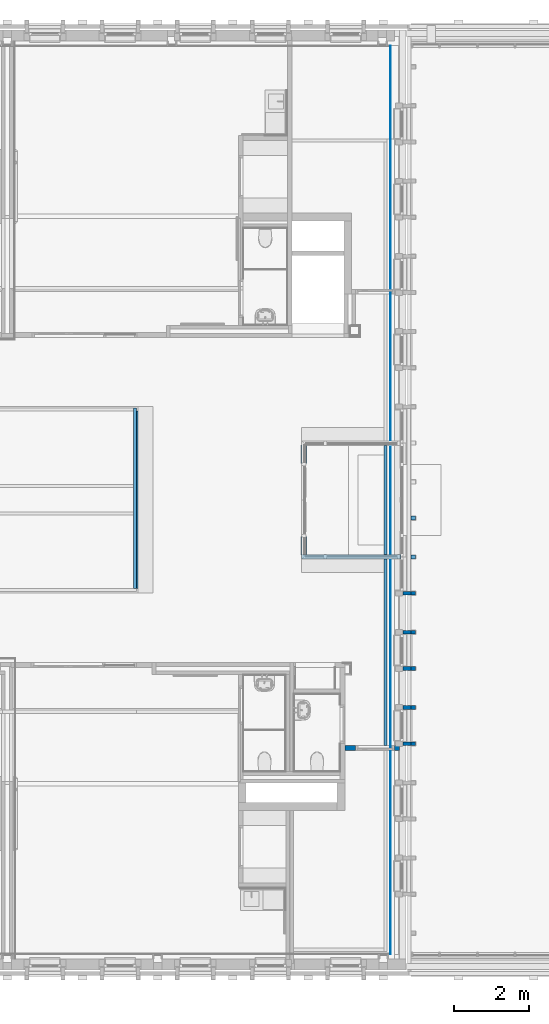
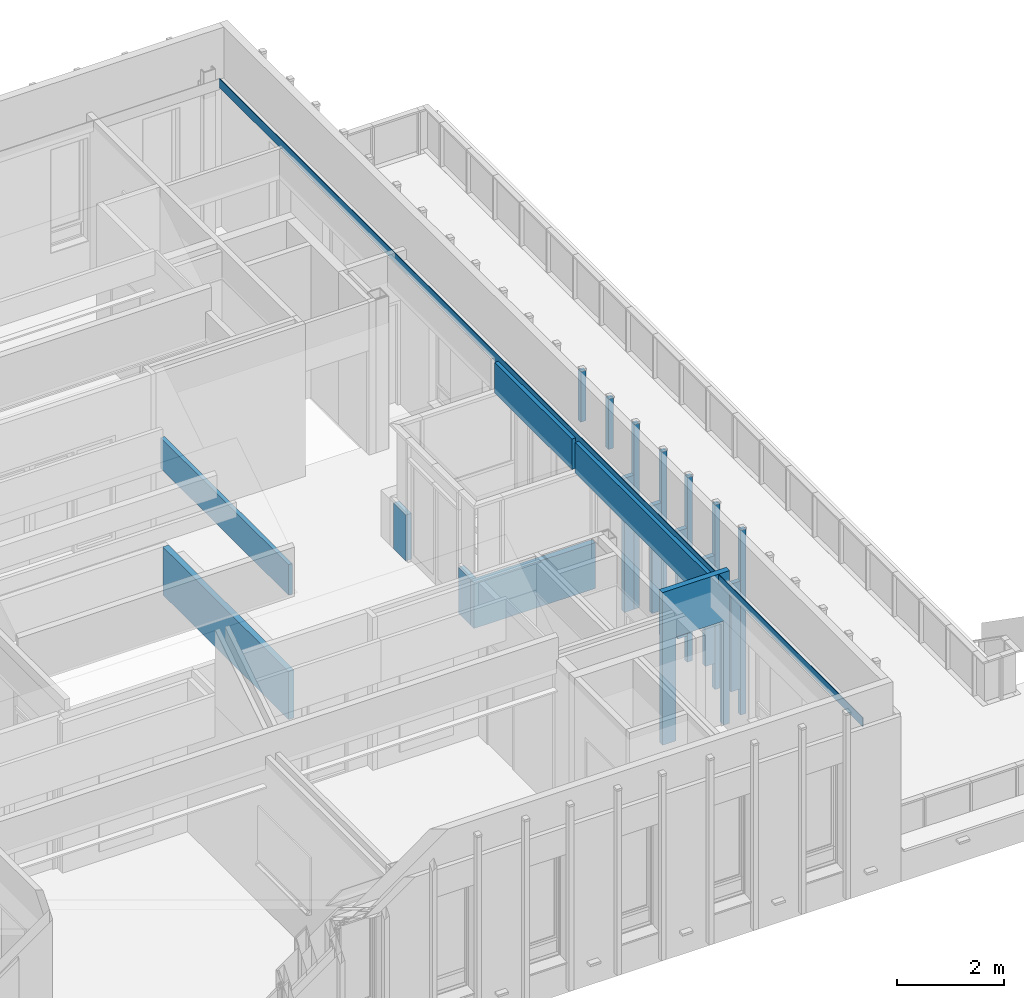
# One storey, part 45 of 118: 20 walls, 2 openings.
"""IFC2X3 building model written with IfcOpenShell, lengths in millimetres."""

from ifc_helpers import new_model, entity, si_unit, converted_unit, derived_unit, direction, frame, frame_2d, origin, origin_2d_with_axis, place, context, subcontext, project, spatial, rectangle, extrude, material, layer, layer_set, layer_usage, type_object, element, save


model = new_model("IFC2X3")

# Units and contexts
model_context = context("Model", 3, precision=0.01, world=origin(), true_north=direction((6.123031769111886e-17, 1.0)))
plan_context = context("Plan", 3, precision=0.01, world=origin(), true_north=direction((6.123031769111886e-17, 1.0)))
body_context = subcontext(model_context, "Body", "Model", "MODEL_VIEW")
ifc_project = project(units=[si_unit("LENGTHUNIT", "METRE", prefix="MILLI"), si_unit("AREAUNIT", "SQUARE_METRE"), si_unit("VOLUMEUNIT", "CUBIC_METRE"), converted_unit("PLANEANGLEUNIT", "DEGREE", entity("IfcRatioMeasure", 0.017453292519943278), si_unit("PLANEANGLEUNIT", "RADIAN"), dimensions=[0, 0, 0, 0, 0, 0, 0]), si_unit("MASSUNIT", "GRAM", prefix="KILO"), derived_unit("MASSDENSITYUNIT", [(si_unit("MASSUNIT", "GRAM", prefix="KILO"), 1), (si_unit("LENGTHUNIT", "METRE"), -3)]), derived_unit("IONCONCENTRATIONUNIT", [(si_unit("MASSUNIT", "GRAM", prefix="KILO"), 1), (si_unit("LENGTHUNIT", "METRE"), -3)]), derived_unit("MOMENTOFINERTIAUNIT", [(si_unit("LENGTHUNIT", "METRE"), 4)]), si_unit("TIMEUNIT", "SECOND"), si_unit("FREQUENCYUNIT", "HERTZ"), si_unit("THERMODYNAMICTEMPERATUREUNIT", "DEGREE_CELSIUS"), derived_unit("THERMALTRANSMITTANCEUNIT", [(si_unit("MASSUNIT", "GRAM", prefix="KILO"), 1), (si_unit("THERMODYNAMICTEMPERATUREUNIT", "KELVIN"), -1), (si_unit("TIMEUNIT", "SECOND"), -3)]), derived_unit("THERMALCONDUCTANCEUNIT", [(si_unit("MASSUNIT", "GRAM", prefix="KILO"), 1), (si_unit("THERMODYNAMICTEMPERATUREUNIT", "KELVIN"), -1), (si_unit("TIMEUNIT", "SECOND"), -3), (si_unit("LENGTHUNIT", "METRE"), 1)]), derived_unit("VOLUMETRICFLOWRATEUNIT", [(si_unit("LENGTHUNIT", "METRE"), 3), (si_unit("TIMEUNIT", "SECOND"), -1)]), derived_unit("MASSFLOWRATEUNIT", [(si_unit("MASSUNIT", "GRAM", prefix="KILO"), 1), (si_unit("TIMEUNIT", "SECOND"), -1)]), derived_unit("ROTATIONALFREQUENCYUNIT", [(si_unit("TIMEUNIT", "SECOND"), -1)]), si_unit("ELECTRICCURRENTUNIT", "AMPERE"), si_unit("ELECTRICVOLTAGEUNIT", "VOLT"), si_unit("POWERUNIT", "WATT"), si_unit("FORCEUNIT", "NEWTON", prefix="KILO"), si_unit("ILLUMINANCEUNIT", "LUX"), si_unit("LUMINOUSFLUXUNIT", "LUMEN"), si_unit("LUMINOUSINTENSITYUNIT", "CANDELA"), derived_unit("USERDEFINED", [(si_unit("MASSUNIT", "GRAM", prefix="KILO"), -1), (si_unit("LENGTHUNIT", "METRE"), -2), (si_unit("TIMEUNIT", "SECOND"), 3), (si_unit("LUMINOUSFLUXUNIT", "LUMEN"), 1)]), derived_unit("USERDEFINED", [(si_unit("MASSUNIT", "GRAM", prefix="KILO"), 1), (si_unit("TIMEUNIT", "SECOND"), -3), (si_unit("LENGTHUNIT", "METRE"), 3), (si_unit("ELECTRICCURRENTUNIT", "AMPERE"), -2)]), derived_unit("SOUNDPOWERUNIT", [(si_unit("MASSUNIT", "GRAM", prefix="KILO"), 1), (si_unit("TIMEUNIT", "SECOND"), -3), (si_unit("LENGTHUNIT", "METRE"), 2)]), derived_unit("SOUNDPRESSUREUNIT", [(si_unit("MASSUNIT", "GRAM", prefix="KILO"), 1), (si_unit("LENGTHUNIT", "METRE"), -1), (si_unit("TIMEUNIT", "SECOND"), -2)]), derived_unit("LINEARVELOCITYUNIT", [(si_unit("LENGTHUNIT", "METRE"), 1), (si_unit("TIMEUNIT", "SECOND"), -1)]), si_unit("PRESSUREUNIT", "PASCAL"), derived_unit("USERDEFINED", [(si_unit("MASSUNIT", "GRAM", prefix="KILO"), 1), (si_unit("LENGTHUNIT", "METRE"), -2), (si_unit("TIMEUNIT", "SECOND"), -2)]), derived_unit("LINEARFORCEUNIT", [(si_unit("MASSUNIT", "GRAM", prefix="KILO"), 1), (si_unit("TIMEUNIT", "SECOND"), -2)]), derived_unit("PLANARFORCEUNIT", [(si_unit("MASSUNIT", "GRAM", prefix="KILO"), 1), (si_unit("LENGTHUNIT", "METRE"), -1), (si_unit("TIMEUNIT", "SECOND"), -2)]), derived_unit("SPECIFICHEATCAPACITYUNIT", [(si_unit("THERMODYNAMICTEMPERATUREUNIT", "KELVIN"), -1), (si_unit("LENGTHUNIT", "METRE"), 2), (si_unit("TIMEUNIT", "SECOND"), -2)]), derived_unit("HEATINGVALUEUNIT", [(si_unit("LENGTHUNIT", "METRE"), 2), (si_unit("TIMEUNIT", "SECOND"), -2)]), derived_unit("VAPORPERMEABILITYUNIT", [(si_unit("LENGTHUNIT", "METRE"), -1), (si_unit("TIMEUNIT", "SECOND"), 1)]), derived_unit("DYNAMICVISCOSITYUNIT", [(si_unit("MASSUNIT", "GRAM", prefix="KILO"), 1), (si_unit("TIMEUNIT", "SECOND"), -1), (si_unit("LENGTHUNIT", "METRE"), -1)]), derived_unit("THERMALEXPANSIONCOEFFICIENTUNIT", [(si_unit("THERMODYNAMICTEMPERATUREUNIT", "KELVIN"), -1)]), derived_unit("MODULUSOFELASTICITYUNIT", [(si_unit("MASSUNIT", "GRAM", prefix="KILO"), 1), (si_unit("LENGTHUNIT", "METRE"), -1), (si_unit("TIMEUNIT", "SECOND"), -2)]), derived_unit("ISOTHERMALMOISTURECAPACITYUNIT", [(si_unit("LENGTHUNIT", "METRE"), 3), (si_unit("MASSUNIT", "GRAM", prefix="KILO"), -1)]), derived_unit("MOISTUREDIFFUSIVITYUNIT", [(si_unit("TIMEUNIT", "SECOND"), -1), (si_unit("LENGTHUNIT", "METRE"), 2)])], contexts=[model_context, plan_context])

# Site, building, storey
site_placement = place(None, origin())
site = spatial("IfcSite", under=ifc_project, at=site_placement, Name="Locatie", CompositionType="ELEMENT")
building_placement = place(site_placement, origin())
building = spatial("IfcBuilding", under=site, at=building_placement, Name="Bouwwerk", CompositionType="ELEMENT")
storey_placement = place(building_placement, frame((0.0, 0.0, 7800.0)))
storey = spatial("IfcBuildingStorey", under=building, at=storey_placement, Name="02 tweede verdieping", CompositionType="ELEMENT", Elevation=7800.000000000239)

# Walls
ifc_material_1 = material(Name="g2_metselwerk_geel licht")
ifc_layer_1 = layer(ifc_material_1, 100.0)
ifc_layer_set_1 = layer_set([ifc_layer_1], Name="Basic Wall:21_WA_metselwerk_licht_100_gen_bdg")
ifc_layer_usage_1 = layer_usage(ifc_layer_set_1, "AXIS2", "NEGATIVE", 50.0)
wall_type_1 = type_object("IfcWallType", Name="Basic Wall:21_WA_metselwerk_licht_100_gen_bdg", PredefinedType="STANDARD", material=ifc_layer_set_1)
wall_1_placement = place(storey_placement, frame((34830.0, 15718.0, 603.0)))
element("IfcWallStandardCase", 1, at=wall_1_placement, inside=storey, type_object=wall_type_1, material=ifc_layer_usage_1, Name="Basic Wall:21_WA_metselwerk_licht_100_gen_bdg", ObjectType="Basic Wall:21_WA_metselwerk_licht_100_gen_bdg", context=body_context, shape_type="SweptSolid", body=[
    extrude(rectangle(XDim=210.00000000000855, YDim=99.99999999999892, at=frame_2d((105.00000000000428, 1.4210854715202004e-13), x_axis=(-1.0, 0.0))), origin(), (0.0, 0.0, 1.0), 2471.999999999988),
])
wall_2_placement = place(storey_placement, frame((35040.0, 15718.0, 0.0)))
element("IfcWallStandardCase", 2, at=wall_2_placement, inside=storey, type_object=wall_type_1, material=ifc_layer_usage_1, Name="Basic Wall:21_WA_metselwerk_licht_100_gen_bdg", ObjectType="Basic Wall:21_WA_metselwerk_licht_100_gen_bdg", context=body_context, shape_type="SweptSolid", body=[
    extrude(rectangle(XDim=114.99999999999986, YDim=99.99999999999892, at=frame_2d((57.49999999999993, 6.679101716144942e-13), x_axis=(-1.0, 0.0))), origin(), (0.0, 0.0, 1.0), 4232.000000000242),
])
ifc_layer_usage_2 = layer_usage(ifc_layer_set_1, "AXIS2", "POSITIVE", -50.0)
wall_3_placement = place(storey_placement, frame((34830.0, 16682.0, 603.0)))
element("IfcWallStandardCase", 3, at=wall_3_placement, inside=storey, type_object=wall_type_1, material=ifc_layer_usage_2, Name="Basic Wall:21_WA_metselwerk_licht_100_gen_bdg", ObjectType="Basic Wall:21_WA_metselwerk_licht_100_gen_bdg", context=body_context, shape_type="SweptSolid", body=[
    extrude(rectangle(XDim=210.00000000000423, YDim=99.99999999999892, at=frame_2d((105.00000000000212, 5.435651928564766e-13), x_axis=(-1.0, 0.0))), origin(), (0.0, 0.0, 1.0), 2471.999999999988),
])
wall_4_placement = place(storey_placement, frame((35040.0, 16682.0, 0.0)))
element("IfcWallStandardCase", 4, at=wall_4_placement, inside=storey, type_object=wall_type_1, material=ifc_layer_usage_2, Name="Basic Wall:21_WA_metselwerk_licht_100_gen_bdg", ObjectType="Basic Wall:21_WA_metselwerk_licht_100_gen_bdg", context=body_context, shape_type="SweptSolid", body=[
    extrude(rectangle(XDim=114.99999999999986, YDim=99.99999999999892, at=frame_2d((57.49999999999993, 6.679101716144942e-13), x_axis=(-1.0, 0.0))), origin(), (0.0, 0.0, 1.0), 4231.99999999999),
])
wall_5_placement = place(storey_placement, frame((34830.0, 17718.0, 603.0)))
element("IfcWallStandardCase", 5, at=wall_5_placement, inside=storey, type_object=wall_type_1, material=ifc_layer_usage_1, Name="Basic Wall:21_WA_metselwerk_licht_100_gen_bdg", ObjectType="Basic Wall:21_WA_metselwerk_licht_100_gen_bdg", context=body_context, shape_type="SweptSolid", body=[
    extrude(rectangle(XDim=210.00000000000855, YDim=99.99999999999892, at=frame_2d((105.00000000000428, 1.4210854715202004e-13), x_axis=(-1.0, 0.0))), origin(), (0.0, 0.0, 1.0), 2471.999999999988),
])
wall_6_placement = place(storey_placement, frame((35040.0, 17718.0, 0.0)))
element("IfcWallStandardCase", 6, at=wall_6_placement, inside=storey, type_object=wall_type_1, material=ifc_layer_usage_1, Name="Basic Wall:21_WA_metselwerk_licht_100_gen_bdg", ObjectType="Basic Wall:21_WA_metselwerk_licht_100_gen_bdg", context=body_context, shape_type="SweptSolid", body=[
    extrude(rectangle(XDim=114.99999999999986, YDim=99.99999999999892, at=frame_2d((57.49999999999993, 6.679101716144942e-13), x_axis=(-1.0, 0.0))), origin(), (0.0, 0.0, 1.0), 4232.000000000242),
])
wall_7_placement = place(storey_placement, frame((34830.0, 18682.0, 603.0)))
element("IfcWallStandardCase", 7, at=wall_7_placement, inside=storey, type_object=wall_type_1, material=ifc_layer_usage_2, Name="Basic Wall:21_WA_metselwerk_licht_100_gen_bdg", ObjectType="Basic Wall:21_WA_metselwerk_licht_100_gen_bdg", context=body_context, shape_type="SweptSolid", body=[
    extrude(rectangle(XDim=210.00000000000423, YDim=99.99999999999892, at=frame_2d((105.00000000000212, 5.435651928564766e-13), x_axis=(-1.0, 0.0))), origin(), (0.0, 0.0, 1.0), 2471.999999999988),
])
wall_8_placement = place(storey_placement, frame((35040.0, 18682.0, 0.0)))
element("IfcWallStandardCase", 8, at=wall_8_placement, inside=storey, type_object=wall_type_1, material=ifc_layer_usage_2, Name="Basic Wall:21_WA_metselwerk_licht_100_gen_bdg", ObjectType="Basic Wall:21_WA_metselwerk_licht_100_gen_bdg", context=body_context, shape_type="SweptSolid", body=[
    extrude(rectangle(XDim=114.99999999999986, YDim=99.99999999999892, at=frame_2d((57.49999999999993, 6.679101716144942e-13), x_axis=(-1.0, 0.0))), origin(), (0.0, 0.0, 1.0), 4231.99999999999),
])
wall_9_placement = place(storey_placement, frame((35040.0, 20682.0, 3075.0)))
element("IfcWallStandardCase", 9, at=wall_9_placement, inside=storey, type_object=wall_type_1, material=ifc_layer_usage_2, Name="Basic Wall:21_WA_metselwerk_licht_100_gen_bdg", ObjectType="Basic Wall:21_WA_metselwerk_licht_100_gen_bdg", context=body_context, shape_type="SweptSolid", body=[
    extrude(rectangle(XDim=114.99999999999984, YDim=100.00000000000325, at=frame_2d((57.49999999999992, -2.948752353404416e-13), x_axis=(-1.0, 0.0))), origin(), (0.0, 0.0, 1.0), 1157.0000000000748),
])
wall_10_placement = place(storey_placement, frame((34830.0, 19718.0, 0.0)))
element("IfcWallStandardCase", 10, at=wall_10_placement, inside=storey, type_object=wall_type_1, material=ifc_layer_usage_1, Name="Basic Wall:21_WA_metselwerk_licht_100_gen_bdg", ObjectType="Basic Wall:21_WA_metselwerk_licht_100_gen_bdg", context=body_context, shape_type="SweptSolid", body=[
    extrude(rectangle(XDim=210.00000000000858, YDim=100.00000000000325, at=frame_2d((105.00000000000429, -5.400124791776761e-13), x_axis=(-1.0, 0.0))), origin(), (0.0, 0.0, 1.0), 3074.999999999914),
])
wall_11_placement = place(storey_placement, frame((35040.0, 19718.0, 0.0)))
element("IfcWallStandardCase", 11, at=wall_11_placement, inside=storey, type_object=wall_type_1, material=ifc_layer_usage_1, Name="Basic Wall:21_WA_metselwerk_licht_100_gen_bdg", ObjectType="Basic Wall:21_WA_metselwerk_licht_100_gen_bdg", context=body_context, shape_type="SweptSolid", body=[
    extrude(rectangle(XDim=114.99999999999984, YDim=100.00000000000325, at=frame_2d((57.49999999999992, -2.948752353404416e-13), x_axis=(-1.0, 0.0))), origin(), (0.0, 0.0, 1.0), 4231.99999999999),
])
wall_12_placement = place(storey_placement, frame((35040.0, 21718.0, 3075.0)))
element("IfcWallStandardCase", 12, at=wall_12_placement, inside=storey, type_object=wall_type_1, material=ifc_layer_usage_2, Name="Basic Wall:21_WA_metselwerk_licht_100_gen_bdg", ObjectType="Basic Wall:21_WA_metselwerk_licht_100_gen_bdg", context=body_context, shape_type="SweptSolid", body=[
    extrude(rectangle(XDim=114.99999999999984, YDim=100.00000000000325, at=frame_2d((57.49999999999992, -2.948752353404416e-13), x_axis=(-1.0, 0.0))), origin(), (0.0, 0.0, 1.0), 1157.0000000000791),
])

# Wall, opening
ifc_material_2 = material(Name="f7_gipsvezel")
ifc_layer_2 = layer(ifc_material_2, 12.5)
ifc_material_3 = material(Name="f7_gips")
ifc_layer_3 = layer(ifc_material_3, 12.5)
ifc_material_4 = material(Name="n7_isolatie_glaswol")
ifc_layer_4 = layer(ifc_material_4, 75.0)
ifc_layer_5 = layer(ifc_material_3, 12.5)
ifc_layer_6 = layer(ifc_material_2, 12.5)
ifc_layer_set_2 = layer_set([ifc_layer_2, ifc_layer_3, ifc_layer_4, ifc_layer_5, ifc_layer_6], Name="Basic Wall: 25-75-25 _gen_bdg")
ifc_layer_usage_3 = layer_usage(ifc_layer_set_2, "AXIS2", "NEGATIVE", 62.50000000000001)
wall_type_2 = type_object("IfcWallType", Name="Basic Wall: 25-75-25 _gen_bdg", PredefinedType="STANDARD", material=ifc_layer_set_2)
wall_13_placement = place(storey_placement, frame((33280.0, 15607.0, 0.0)))
wall_13 = element("IfcWallStandardCase", 13, at=wall_13_placement, inside=storey, type_object=wall_type_2, material=ifc_layer_usage_3, Name="Basic Wall: 25-75-25 _gen_bdg", ObjectType="Basic Wall: 25-75-25 _gen_bdg", context=body_context, shape_type="SweptSolid", body=[
    extrude(rectangle(XDim=1449.999999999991, YDim=125.0000000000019, at=frame_2d((724.9999999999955, -1.7763568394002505e-14), x_axis=(-1.0, 0.0))), origin(), (0.0, 0.0, 1.0), 3500.0000000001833),
])
opening_1_placement = place(wall_13_placement, frame((-33280.0, -15607.0, 0.0)))
element("IfcOpeningElement", 14, at=opening_1_placement, cuts=wall_13, Name="Basic Wall: 25-75-25 _gen_bdg", ObjectType="Opening", context=body_context, shape_type="SweptSolid", body=[
    extrude(rectangle(XDim=2387.000000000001, YDim=1033.9999999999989, at=frame_2d((1.1368683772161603e-12, 0.0), x_axis=(1.0, 0.0))), frame((34083.0, 14145.50000806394, 1193.4999999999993), z_axis=(0.0, 1.0, 0.0), x_axis=(0.0, 0.0, 1.0)), (0.0, 0.0, 1.0), 3048.0),
])

wall_14_placement = place(storey_placement, frame((32187.500000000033, 23650.0, 0.0), z_axis=(0.0, 0.0, 1.0), x_axis=(0.0, -1.0, 0.0)))
wall_14 = element("IfcWallStandardCase", 15, at=wall_14_placement, inside=storey, type_object=wall_type_2, material=ifc_layer_usage_3, Name="Basic Wall: 25-75-25 _gen_bdg", ObjectType="Basic Wall: 25-75-25 _gen_bdg", context=body_context, shape_type="SweptSolid", body=[
    extrude(rectangle(XDim=125.0000000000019, YDim=2900.0000000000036, at=frame_2d((1450.0000000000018, -2.170708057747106e-12), x_axis=(0.0, -1.0))), origin(), (0.0, 0.0, 1.0), 1049.9999999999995),
])
opening_2_placement = place(wall_14_placement, origin())
element("IfcOpeningElement", 16, at=opening_2_placement, cuts=wall_14, Name="Basic Wall: 25-75-25 _gen_bdg", ObjectType="Opening", context=body_context, shape_type="SweptSolid", body=[
    extrude(rectangle(XDim=2800.0, YDim=1966.0000000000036, at=origin_2d_with_axis()), frame((1450.0, -214.90000000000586, 1400.0), z_axis=(0.0, 1.0, 0.0), x_axis=(0.0, 0.0, 1.0)), (0.0, 0.0, 1.0), 429.8000000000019),
])

# Walls
wall_15_placement = place(storey_placement, frame((32125.0, 20687.499999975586, 0.0)))
element("IfcWallStandardCase", 17, at=wall_15_placement, inside=storey, type_object=wall_type_2, material=ifc_layer_usage_3, Name="Basic Wall: 25-75-25 _gen_bdg", ObjectType="Basic Wall: 25-75-25 _gen_bdg", context=body_context, shape_type="SweptSolid", body=[
    extrude(rectangle(XDim=2627.8000000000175, YDim=124.99999999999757, at=frame_2d((1313.9000000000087, 0.0), x_axis=(-1.0, 0.0))), origin(), (0.0, 0.0, 1.0), 1049.9999999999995),
])
wall_16_placement = place(storey_placement, frame((27715.499999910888, 19847.33688605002, -50.0), z_axis=(0.0, 0.0, 1.0), x_axis=(0.0, 1.0, 0.0)))
element("IfcWallStandardCase", 18, at=wall_16_placement, inside=storey, type_object=wall_type_2, material=ifc_layer_usage_3, Name="Basic Wall: 25-75-25 _gen_bdg", ObjectType="Basic Wall: 25-75-25 _gen_bdg", context=body_context, shape_type="SweptSolid", body=[
    extrude(rectangle(XDim=4717.999999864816, YDim=124.99999999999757, at=frame_2d((2358.999999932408, -8.526512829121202e-14), x_axis=(-1.0, 0.0))), origin(), (0.0, 0.0, 1.0), 1099.999999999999),
])
ifc_layer_7 = layer(ifc_material_2, 13.000000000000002)
ifc_material_5 = material(Name="ISR_Luchtspouw")
ifc_layer_8 = layer(ifc_material_5, 71.0)
ifc_layer_set_3 = layer_set([ifc_layer_7, ifc_layer_8], Name="Basic Wall:22_WA_koof_83 12-71")
ifc_layer_usage_4 = layer_usage(ifc_layer_set_3, "AXIS2", "NEGATIVE", 41.99999999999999)
wall_type_3 = type_object("IfcWallType", Name="Basic Wall:22_WA_koof_83 12-71", PredefinedType="STANDARD", material=ifc_layer_set_3)
wall_17_placement = place(storey_placement, frame((27695.0, 19847.336886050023, 2800.0), z_axis=(0.0, 0.0, 1.0), x_axis=(0.0, 1.0, 0.0)))
element("IfcWallStandardCase", 19, at=wall_17_placement, inside=storey, type_object=wall_type_3, material=ifc_layer_usage_4, Name="Basic Wall:22_WA_koof_83 12-71", ObjectType="Basic Wall:22_WA_koof_83 12-71", context=body_context, shape_type="SweptSolid", body=[
    extrude(rectangle(XDim=4801.999999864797, YDim=83.99999999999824, at=frame_2d((2400.9999999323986, -1.7053025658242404e-13), x_axis=(-1.0, 0.0))), origin(), (0.0, 0.0, 1.0), 700.000000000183),
])
wall_18_placement = place(storey_placement, frame((34358.0, 23650.0, 2800.0), z_axis=(0.0, 0.0, 1.0), x_axis=(0.0, -1.0, 0.0)))
element("IfcWallStandardCase", 20, at=wall_18_placement, inside=storey, type_object=wall_type_3, material=ifc_layer_usage_4, Name="Basic Wall:22_WA_koof_83 12-71", ObjectType="Basic Wall:22_WA_koof_83 12-71", context=body_context, shape_type="SweptSolid", body=[
    extrude(rectangle(XDim=2899.999999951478, YDim=83.99999999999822, at=frame_2d((1449.999999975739, 0.0), x_axis=(-1.0, 0.0))), origin(), (0.0, 0.0, 1.0), 700.000000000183),
])
wall_19_placement = place(storey_placement, frame((34358.0, 20625.0, 2800.0), z_axis=(0.0, 0.0, 1.0), x_axis=(0.0, -1.0, 0.0)))
element("IfcWallStandardCase", 21, at=wall_19_placement, inside=storey, type_object=wall_type_3, material=ifc_layer_usage_4, Name="Basic Wall:22_WA_koof_83 12-71", ObjectType="Basic Wall:22_WA_koof_83 12-71", context=body_context, shape_type="SweptSolid", body=[
    extrude(rectangle(XDim=4955.499991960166, YDim=83.99999999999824, at=frame_2d((2477.749995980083, -1.0516032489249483e-12), x_axis=(-1.0, 0.0))), origin(), (0.0, 0.0, 1.0), 700.000000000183),
])
ifc_material_6 = material(Name="ISR_brandwerende beplating")
ifc_layer_9 = layer(ifc_material_6, 15.0)
ifc_layer_set_4 = layer_set([ifc_layer_9], Name="Basic Wall:NLRS_41_WA_brandwerende beplating 15_gen_ISR")
ifc_layer_usage_5 = layer_usage(ifc_layer_set_4, "AXIS2", "POSITIVE", -7.5)
wall_type_4 = type_object("IfcWallType", Name="Basic Wall:NLRS_41_WA_brandwerende beplating 15_gen_ISR", PredefinedType="STANDARD", material=ifc_layer_set_4)
wall_20_placement = place(storey_placement, frame((34492.50000000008, 34280.0, 3295.0), z_axis=(0.0, 0.0, 1.0), x_axis=(0.0, -1.0, 0.0)))
element("IfcWallStandardCase", 22, at=wall_20_placement, inside=storey, type_object=wall_type_4, material=ifc_layer_usage_5, Name="Basic Wall:NLRS_41_WA_brandwerende beplating 15_gen_ISR", ObjectType="Basic Wall:NLRS_41_WA_brandwerende beplating 15_gen_ISR", context=body_context, shape_type="SweptSolid", body=[
    extrude(rectangle(XDim=24159.9999999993, YDim=14.99999999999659, at=frame_2d((12079.99999999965, -1.0746958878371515e-12), x_axis=(-1.0, 0.0))), origin(), (0.0, 0.0, 1.0), 204.9999999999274),
])

save(model, "model.ifc")
